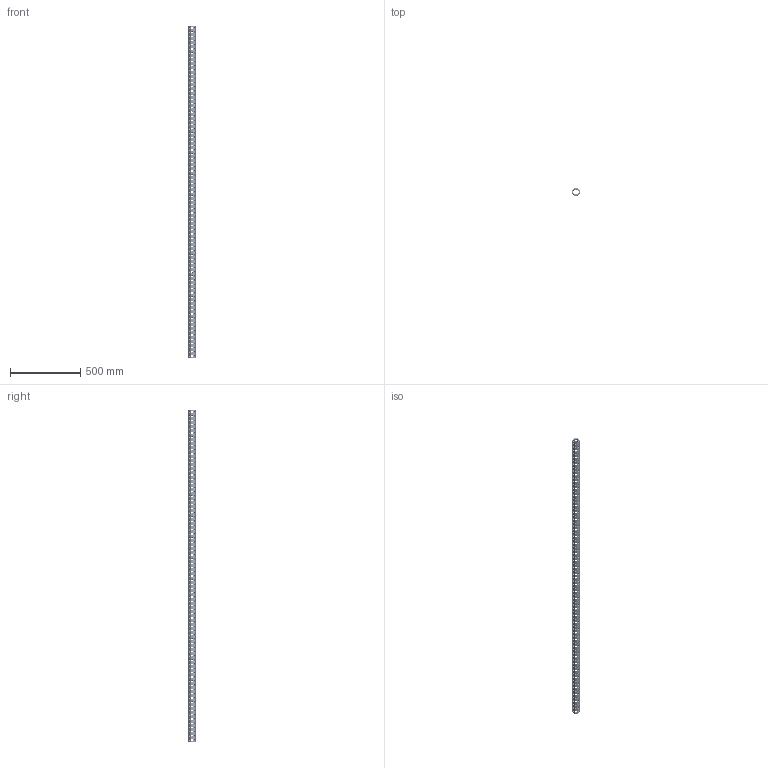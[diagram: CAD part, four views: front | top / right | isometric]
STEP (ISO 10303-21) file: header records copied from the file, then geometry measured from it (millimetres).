
FILE_DESCRIPTION(('CATIA V5 STEP Exchange'),'2;1');
FILE_NAME('U:\Room\唐宝山\EGT002\46-01-010308-01-EGT002-2368.stp','2021-08-24T02:04:06+00:00',('none'),('none'),'CATIA Version 5 Release 21 GA (IN-10)','CATIA V5 STEP AP203','none');
FILE_SCHEMA(('CONFIG_CONTROL_DESIGN'));
Products named in the file (1): 46-01-010308-01-EGT002-2368
Bounding box: 50 x 50 x 2368 mm (x, y, z)
Volume: 1687229.7 mm3; surface area: 813104.1 mm2
Topology: 1 solids, 1 shells, 3244 faces, 8936 edges, 5536 vertices
Faces by surface type: cone 1896, cylinder 1322, plane 26
Entity records: 138980 total; most frequent: CARTESIAN_POINT 61115, ORIENTED_EDGE 17872, DIRECTION 12294, EDGE_CURVE 8936, AXIS2_PLACEMENT_3D 5603, VERTEX_POINT 5536, EDGE_LOOP 4352, VECTOR 3448
